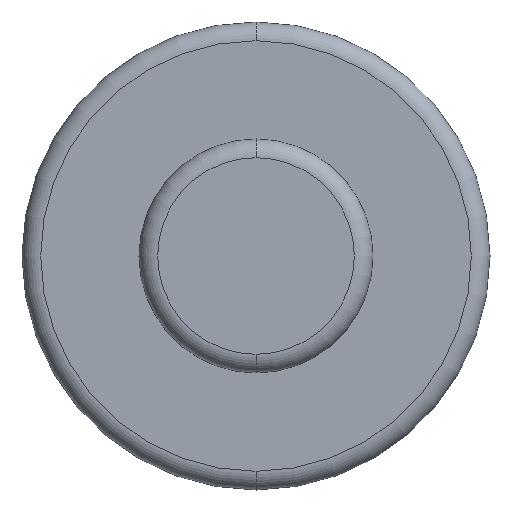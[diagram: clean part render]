
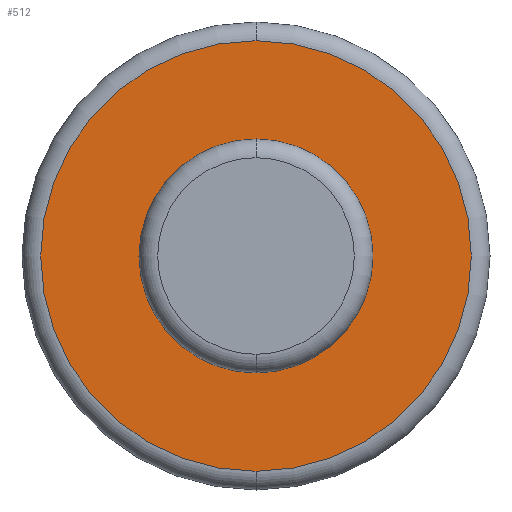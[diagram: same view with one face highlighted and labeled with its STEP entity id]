
A CAD part, front view. The second image highlights one B-rep face of the part: STEP entity #512.
In plain terms, the highlighted planar face has unit normal (0, -1, 0).
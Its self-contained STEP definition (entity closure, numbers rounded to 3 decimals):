
#55 = DIRECTION ( 'NONE',  ( 0., 1., 0. ) ) ;
#64 = FACE_BOUND ( 'NONE', #781, .T. ) ;
#77 = DIRECTION ( 'NONE',  ( 0., 0., 1. ) ) ;
#91 = EDGE_LOOP ( 'NONE', ( #482, #395 ) ) ;
#126 = CIRCLE ( 'NONE', #730, 2.3 ) ;
#146 = DIRECTION ( 'NONE',  ( 0., 0., 1. ) ) ;
#148 = EDGE_CURVE ( 'NONE', #514, #752, #126, .T. ) ;
#194 = VERTEX_POINT ( 'NONE', #227 ) ;
#197 = PLANE ( 'NONE',  #775 ) ;
#216 = DIRECTION ( 'NONE',  ( 0., -1., 0. ) ) ;
#227 = CARTESIAN_POINT ( 'NONE',  ( 0., 5., -1.25 ) ) ;
#231 = CIRCLE ( 'NONE', #766, 2.3 ) ;
#241 = DIRECTION ( 'NONE',  ( 0., 0., 1. ) ) ;
#260 = DIRECTION ( 'NONE',  ( 0., 0., 1. ) ) ;
#267 = DIRECTION ( 'NONE',  ( 0., 1., 0. ) ) ;
#268 = EDGE_CURVE ( 'NONE', #194, #770, #502, .T. ) ;
#332 = DIRECTION ( 'NONE',  ( 0., 1., 0. ) ) ;
#380 = CIRCLE ( 'NONE', #588, 1.25 ) ;
#394 = FACE_OUTER_BOUND ( 'NONE', #91, .T. ) ;
#395 = ORIENTED_EDGE ( 'NONE', *, *, #148, .T. ) ;
#400 = DIRECTION ( 'NONE',  ( 0., 0., 1. ) ) ;
#411 = EDGE_CURVE ( 'NONE', #752, #514, #231, .T. ) ;
#418 = ORIENTED_EDGE ( 'NONE', *, *, #440, .T. ) ;
#440 = EDGE_CURVE ( 'NONE', #770, #194, #380, .T. ) ;
#448 = CARTESIAN_POINT ( 'NONE',  ( 0., 5., 0. ) ) ;
#453 = CARTESIAN_POINT ( 'NONE',  ( 0., 5., -2.3 ) ) ;
#482 = ORIENTED_EDGE ( 'NONE', *, *, #411, .T. ) ;
#502 = CIRCLE ( 'NONE', #676, 1.25 ) ;
#512 = ADVANCED_FACE ( 'NONE', ( #394, #64 ), #197, .F. ) ;
#514 = VERTEX_POINT ( 'NONE', #453 ) ;
#560 = CARTESIAN_POINT ( 'NONE',  ( 0., 5., 1.25 ) ) ;
#578 = CARTESIAN_POINT ( 'NONE',  ( 0., 5., 0. ) ) ;
#588 = AXIS2_PLACEMENT_3D ( 'NONE', #448, #332, #400 ) ;
#629 = CARTESIAN_POINT ( 'NONE',  ( 0., 5., 0. ) ) ;
#641 = CARTESIAN_POINT ( 'NONE',  ( 0., 5., 0. ) ) ;
#645 = DIRECTION ( 'NONE',  ( 0., -1., 0. ) ) ;
#676 = AXIS2_PLACEMENT_3D ( 'NONE', #629, #55, #241 ) ;
#679 = CARTESIAN_POINT ( 'NONE',  ( 0., 5., 2.3 ) ) ;
#730 = AXIS2_PLACEMENT_3D ( 'NONE', #783, #216, #77 ) ;
#752 = VERTEX_POINT ( 'NONE', #679 ) ;
#766 = AXIS2_PLACEMENT_3D ( 'NONE', #578, #645, #146 ) ;
#770 = VERTEX_POINT ( 'NONE', #560 ) ;
#775 = AXIS2_PLACEMENT_3D ( 'NONE', #641, #267, #260 ) ;
#781 = EDGE_LOOP ( 'NONE', ( #801, #418 ) ) ;
#783 = CARTESIAN_POINT ( 'NONE',  ( 0., 5., 0. ) ) ;
#801 = ORIENTED_EDGE ( 'NONE', *, *, #268, .T. ) ;
